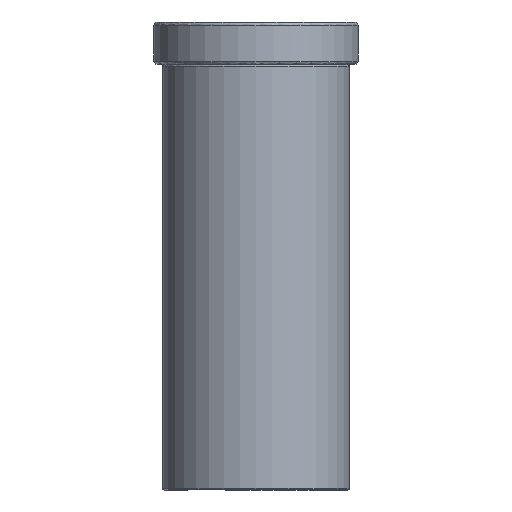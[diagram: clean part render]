
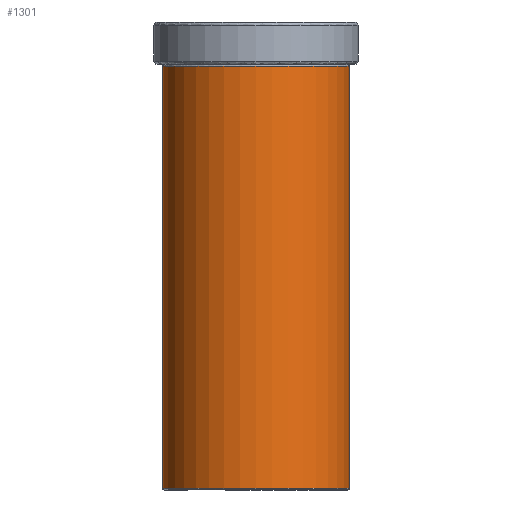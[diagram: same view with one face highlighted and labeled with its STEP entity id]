
A CAD part, left-side view. The second image highlights one B-rep face of the part: STEP entity #1301.
In plain terms, the highlighted cylindrical face has radius 10.984 mm (diameter 21.967 mm), a partial arc.
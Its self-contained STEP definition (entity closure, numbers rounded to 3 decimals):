
#30=CYLINDRICAL_SURFACE('',#1423,10.984);
#80=CIRCLE('',#1419,10.984);
#83=CIRCLE('',#1424,10.984);
#197=FACE_OUTER_BOUND('',#289,.T.);
#289=EDGE_LOOP('',(#953,#954,#955,#956));
#376=LINE('',#2117,#460);
#382=LINE('',#2229,#466);
#460=VECTOR('',#1606,10.);
#466=VECTOR('',#1632,10.);
#577=VERTEX_POINT('',#2110);
#579=VERTEX_POINT('',#2116);
#585=VERTEX_POINT('',#2186);
#587=VERTEX_POINT('',#2228);
#704=EDGE_CURVE('',#579,#577,#376,.T.);
#714=EDGE_CURVE('',#585,#577,#80,.T.);
#718=EDGE_CURVE('',#587,#585,#382,.T.);
#719=EDGE_CURVE('',#579,#587,#83,.T.);
#953=ORIENTED_EDGE('',*,*,#718,.T.);
#954=ORIENTED_EDGE('',*,*,#714,.T.);
#955=ORIENTED_EDGE('',*,*,#704,.F.);
#956=ORIENTED_EDGE('',*,*,#719,.T.);
#1301=ADVANCED_FACE('',(#197),#30,.T.);
#1419=AXIS2_PLACEMENT_3D('',#2188,#1621,#1622);
#1423=AXIS2_PLACEMENT_3D('',#2227,#1630,#1631);
#1424=AXIS2_PLACEMENT_3D('',#2230,#1633,#1634);
#1606=DIRECTION('',(0.,0.,1.));
#1621=DIRECTION('center_axis',(0.,0.,
-1.));
#1622=DIRECTION('ref_axis',(0.,1.,0.));
#1630=DIRECTION('center_axis',(0.,0.,1.));
#1631=DIRECTION('ref_axis',(-1.,0.,0.));
#1632=DIRECTION('',(0.,0.,1.));
#1633=DIRECTION('center_axis',(0.,0.,
1.));
#1634=DIRECTION('ref_axis',(0.,-1.,0.));
#2110=CARTESIAN_POINT('',(-17.64,15.984,11.8));
#2116=CARTESIAN_POINT('',(-17.64,15.984,-37.8));
#2117=CARTESIAN_POINT('',(-17.64,15.984,-37.8));
#2186=CARTESIAN_POINT('',(-17.64,-5.984,11.8));
#2188=CARTESIAN_POINT('Origin',(-17.64,5.,11.8));
#2227=CARTESIAN_POINT('Origin',(-17.64,5.,12.));
#2228=CARTESIAN_POINT('',(-17.64,-5.984,-37.8));
#2229=CARTESIAN_POINT('',(-17.64,-5.984,-37.8));
#2230=CARTESIAN_POINT('Origin',(-17.64,5.,-37.8));
